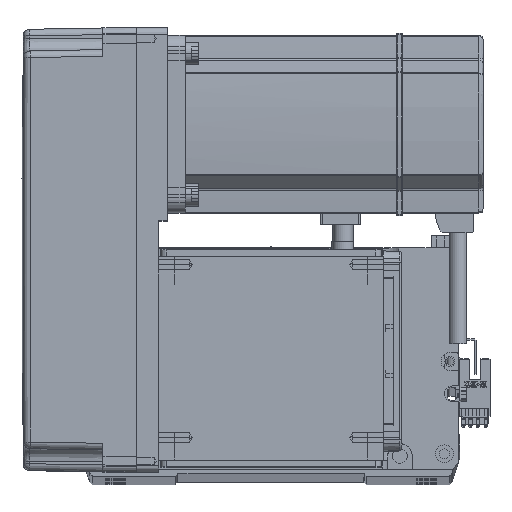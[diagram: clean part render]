
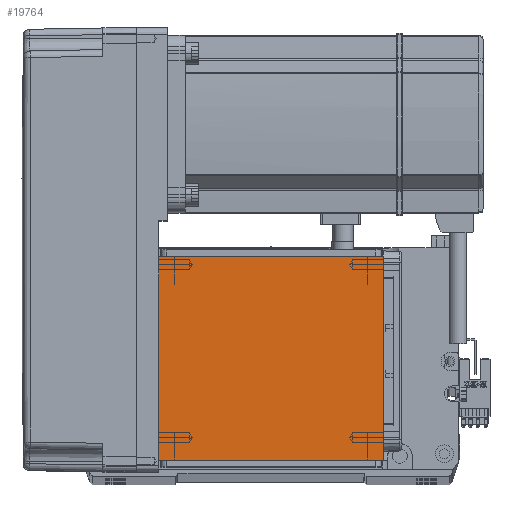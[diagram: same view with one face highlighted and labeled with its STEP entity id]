
A CAD part, top view. The second image highlights one B-rep face of the part: STEP entity #19764.
In plain terms, the highlighted planar face has unit normal (0, 0, 1).
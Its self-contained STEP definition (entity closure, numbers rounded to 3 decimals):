
#2180 = LINE ( 'NONE', #58098, #46120 ) ;
#2856 = VECTOR ( 'NONE', #47510, 1000. ) ;
#3869 = CARTESIAN_POINT ( 'NONE',  ( -50.5, 122., 115. ) ) ;
#4807 = CARTESIAN_POINT ( 'NONE',  ( -50.5, 20., 115. ) ) ;
#5981 = PLANE ( 'NONE',  #26447 ) ;
#7360 = DIRECTION ( 'NONE',  ( -1., 0., 0. ) ) ;
#9720 = EDGE_CURVE ( 'NONE', #23317, #11360, #23630, .T. ) ;
#10637 = VECTOR ( 'NONE', #7360, 1000. ) ;
#11360 = VERTEX_POINT ( 'NONE', #4807 ) ;
#16288 = DIRECTION ( 'NONE',  ( 0., 0., 1. ) ) ;
#18373 = CARTESIAN_POINT ( 'NONE',  ( 50.5, 111.5, 115. ) ) ;
#18797 = VERTEX_POINT ( 'NONE', #41876 ) ;
#19764 = ADVANCED_FACE ( 'NONE', ( #56180 ), #5981, .T. ) ;
#19800 = CARTESIAN_POINT ( 'NONE',  ( 50.5, 122., 115. ) ) ;
#22406 = LINE ( 'NONE', #19800, #52693 ) ;
#23317 = VERTEX_POINT ( 'NONE', #39799 ) ;
#23630 = LINE ( 'NONE', #30709, #10637 ) ;
#24006 = LINE ( 'NONE', #3869, #2856 ) ;
#26447 = AXIS2_PLACEMENT_3D ( 'NONE', #46036, #16288, #40908 ) ;
#26570 = ORIENTED_EDGE ( 'NONE', *, *, #9720, .F. ) ;
#27534 = EDGE_CURVE ( 'NONE', #23317, #45298, #22406, .T. ) ;
#30709 = CARTESIAN_POINT ( 'NONE',  ( -70.004, 20., 115. ) ) ;
#34476 = EDGE_CURVE ( 'NONE', #18797, #45298, #2180, .T. ) ;
#38598 = DIRECTION ( 'NONE',  ( 1., 0., 0. ) ) ;
#39799 = CARTESIAN_POINT ( 'NONE',  ( 50.5, 20., 115. ) ) ;
#40908 = DIRECTION ( 'NONE',  ( 1., 0., 0. ) ) ;
#41876 = CARTESIAN_POINT ( 'NONE',  ( -50.5, 111.5, 115. ) ) ;
#44189 = DIRECTION ( 'NONE',  ( 0., 1., 0. ) ) ;
#45298 = VERTEX_POINT ( 'NONE', #18373 ) ;
#46036 = CARTESIAN_POINT ( 'NONE',  ( 0., 0., 115. ) ) ;
#46120 = VECTOR ( 'NONE', #38598, 1000. ) ;
#46423 = ORIENTED_EDGE ( 'NONE', *, *, #55502, .T. ) ;
#47510 = DIRECTION ( 'NONE',  ( 0., -1., 0. ) ) ;
#50340 = ORIENTED_EDGE ( 'NONE', *, *, #34476, .F. ) ;
#52693 = VECTOR ( 'NONE', #44189, 1000. ) ;
#55502 = EDGE_CURVE ( 'NONE', #18797, #11360, #24006, .T. ) ;
#56180 = FACE_OUTER_BOUND ( 'NONE', #57810, .T. ) ;
#57810 = EDGE_LOOP ( 'NONE', ( #50340, #46423, #26570, #59057 ) ) ;
#58098 = CARTESIAN_POINT ( 'NONE',  ( -70.004, 111.5, 115. ) ) ;
#59057 = ORIENTED_EDGE ( 'NONE', *, *, #27534, .T. ) ;
